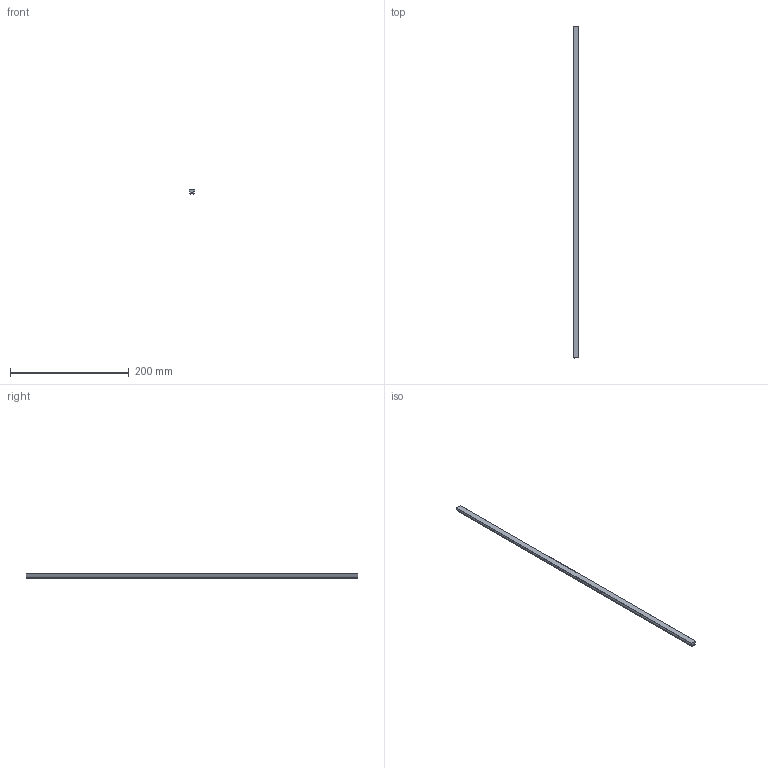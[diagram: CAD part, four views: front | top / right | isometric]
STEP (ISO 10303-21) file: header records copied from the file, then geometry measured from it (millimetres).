
FILE_DESCRIPTION(('CAx-IF Rec.Pracs.---Model Styling and Organization---1.2---2011-12-15','CAx-IF Rec.Pracs.---Geometric and Assembly Validation Properties---4.1---2014-06-16','CAx-IF Rec.Pracs.---PMI Polyline Presentation---2.0---2013-05-24'),'2;1');
FILE_NAME('021Y70QY03.stp','2017-12-22T06:27:56+01:00',(''),(''),'STEP Interface 4.1 Sp1 by CT CoreTechnologie','3D_Evolution4.1 Sp1 by CT CoreTechnologie','');
FILE_SCHEMA(('AUTOMOTIVE_DESIGN { 1 0 10303 214 1 1 1 1 }'));
Length unit declared in the file: millimetre
Products named in the file (1): 021-70Q-03
Bounding box: 10 x 560 x 7.36 mm (x, y, z)
Volume: 26763 mm3; surface area: 22077.2 mm2
Topology: 1 solids, 1 shells, 24 faces, 66 edges, 44 vertices
Faces by surface type: plane 12, cylinder 8, bspline 4
Entity records: 1037 total; most frequent: CARTESIAN_POINT 227, ORIENTED_EDGE 132, DIRECTION 114, EDGE_CURVE 66, VERTEX_POINT 44, VECTOR 44, LINE 44, AXIS2_PLACEMENT_3D 35
